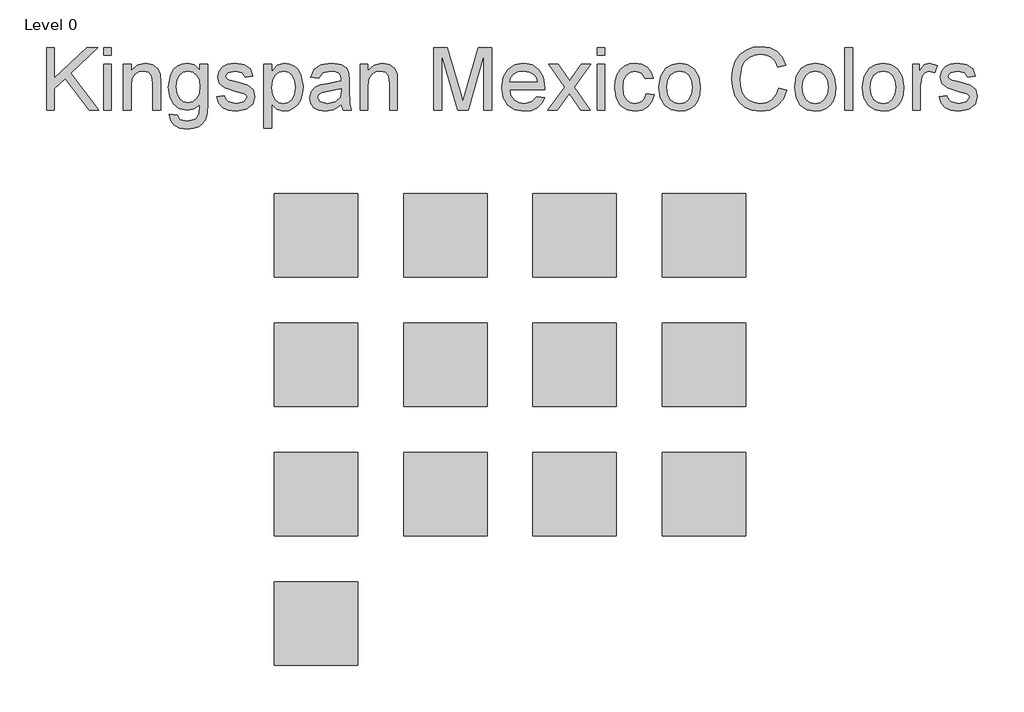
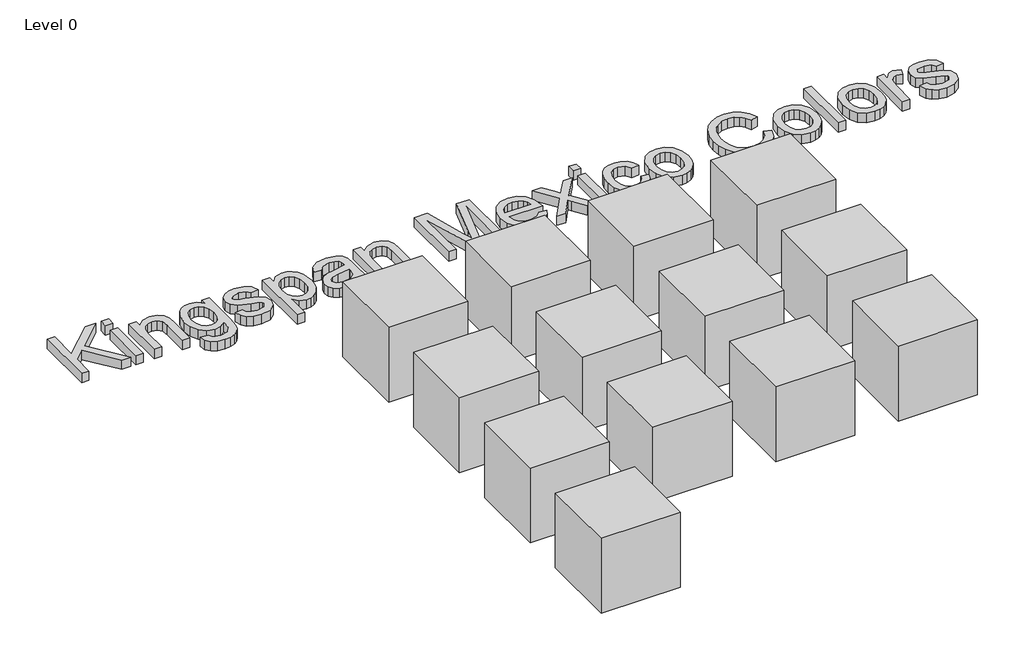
# One storey, incomplete: 14 proxies.
"""IFC4 building model written with IfcOpenShell, lengths in millimetres."""

from ifc_helpers import new_model, si_unit, origin, place, context, project, spatial, transform, mapped, element, save
from components import generic_models_94ed907e, ks_colour_sample_ks_colour_sample_0243efec

model = new_model("IFC4")

# Units and contexts
model_context = context("Model", 3, world=origin())
ifc_project = project(units=[si_unit("LENGTHUNIT", "METRE", prefix="MILLI")], contexts=[model_context])

# Site, building, storey
site = spatial("IfcSite", under=ifc_project)
building = spatial("IfcBuilding", under=site)
storey = spatial("IfcBuildingStorey", under=building, Name="Level 0", Elevation=0.0)

# Proxies
placement = place(None, origin())
generic_models_shape = generic_models_94ed907e(model_context)
element("IfcBuildingElementProxy", 1, Name="KIP-MX_ColourRange_English : KIP-MX_ColourRange_English", ObjectType="KIP-MX_ColourRange_English : KIP-MX_ColourRange_English", at=placement, inside=storey, context=model_context, shape_type="MappedRepresentation", body=[
    mapped(generic_models_shape, transform((1966.0629502, 11802.7493823, 0.0), x_axis=(1.0, 0.0, 0.0), y_axis=(0.0, 1.0, 0.0), z_axis=(0.0, 0.0, 1.0))),
])
ks_colour_sample_ks_colour_sample_shape = ks_colour_sample_ks_colour_sample_0243efec(model_context)
element("IfcBuildingElementProxy", 2, Name="KS_Colour Sample : KS_Colour Sample", ObjectType="KS_Colour Sample : KS_Colour Sample", at=placement, inside=storey, context=model_context, shape_type="MappedRepresentation", body=[
    mapped(ks_colour_sample_ks_colour_sample_shape, transform((1501.0629502, 13781.2299273, 0.0), x_axis=(1.0, 0.0, 0.0), y_axis=(0.0, 1.0, 0.0), z_axis=(0.0, 0.0, 1.0))),
])
element("IfcBuildingElementProxy", 3, Name="KS_Colour Sample : KS_Colour Sample", ObjectType="KS_Colour Sample : KS_Colour Sample", at=placement, inside=storey, context=model_context, shape_type="MappedRepresentation", body=[
    mapped(ks_colour_sample_ks_colour_sample_shape, transform((1811.0629502, 13781.2299273, 0.0), x_axis=(1.0, 0.0, 0.0), y_axis=(0.0, 1.0, 0.0), z_axis=(0.0, 0.0, 1.0))),
])
element("IfcBuildingElementProxy", 4, Name="KS_Colour Sample : KS_Colour Sample", ObjectType="KS_Colour Sample : KS_Colour Sample", at=placement, inside=storey, context=model_context, shape_type="MappedRepresentation", body=[
    mapped(ks_colour_sample_ks_colour_sample_shape, transform((2121.0629502, 13781.2299273, 0.0), x_axis=(1.0, 0.0, 0.0), y_axis=(0.0, 1.0, 0.0), z_axis=(0.0, 0.0, 1.0))),
])
element("IfcBuildingElementProxy", 5, Name="KS_Colour Sample : KS_Colour Sample", ObjectType="KS_Colour Sample : KS_Colour Sample", at=placement, inside=storey, context=model_context, shape_type="MappedRepresentation", body=[
    mapped(ks_colour_sample_ks_colour_sample_shape, transform((2431.0629502, 13781.2299273, 0.0), x_axis=(1.0, 0.0, 0.0), y_axis=(0.0, 1.0, 0.0), z_axis=(0.0, 0.0, 1.0))),
])
element("IfcBuildingElementProxy", 6, Name="KS_Colour Sample : KS_Colour Sample", ObjectType="KS_Colour Sample : KS_Colour Sample", at=placement, inside=storey, context=model_context, shape_type="MappedRepresentation", body=[
    mapped(ks_colour_sample_ks_colour_sample_shape, transform((1501.0629502, 13471.2299273, 0.0), x_axis=(1.0, 0.0, 0.0), y_axis=(0.0, 1.0, 0.0), z_axis=(0.0, 0.0, 1.0))),
])
element("IfcBuildingElementProxy", 7, Name="KS_Colour Sample : KS_Colour Sample", ObjectType="KS_Colour Sample : KS_Colour Sample", at=placement, inside=storey, context=model_context, shape_type="MappedRepresentation", body=[
    mapped(ks_colour_sample_ks_colour_sample_shape, transform((1811.0629502, 13471.2299273, 0.0), x_axis=(1.0, 0.0, 0.0), y_axis=(0.0, 1.0, 0.0), z_axis=(0.0, 0.0, 1.0))),
])
element("IfcBuildingElementProxy", 8, Name="KS_Colour Sample : KS_Colour Sample", ObjectType="KS_Colour Sample : KS_Colour Sample", at=placement, inside=storey, context=model_context, shape_type="MappedRepresentation", body=[
    mapped(ks_colour_sample_ks_colour_sample_shape, transform((2121.0629502, 13471.2299273, 0.0), x_axis=(1.0, 0.0, 0.0), y_axis=(0.0, 1.0, 0.0), z_axis=(0.0, 0.0, 1.0))),
])
element("IfcBuildingElementProxy", 9, Name="KS_Colour Sample : KS_Colour Sample", ObjectType="KS_Colour Sample : KS_Colour Sample", at=placement, inside=storey, context=model_context, shape_type="MappedRepresentation", body=[
    mapped(ks_colour_sample_ks_colour_sample_shape, transform((2431.0629502, 13471.2299273, 0.0), x_axis=(1.0, 0.0, 0.0), y_axis=(0.0, 1.0, 0.0), z_axis=(0.0, 0.0, 1.0))),
])
element("IfcBuildingElementProxy", 10, Name="KS_Colour Sample : KS_Colour Sample", ObjectType="KS_Colour Sample : KS_Colour Sample", at=placement, inside=storey, context=model_context, shape_type="MappedRepresentation", body=[
    mapped(ks_colour_sample_ks_colour_sample_shape, transform((1501.0629502, 13161.2299273, 0.0), x_axis=(1.0, 0.0, 0.0), y_axis=(0.0, 1.0, 0.0), z_axis=(0.0, 0.0, 1.0))),
])
element("IfcBuildingElementProxy", 11, Name="KS_Colour Sample : KS_Colour Sample", ObjectType="KS_Colour Sample : KS_Colour Sample", at=placement, inside=storey, context=model_context, shape_type="MappedRepresentation", body=[
    mapped(ks_colour_sample_ks_colour_sample_shape, transform((1811.0629502, 13161.2299273, 0.0), x_axis=(1.0, 0.0, 0.0), y_axis=(0.0, 1.0, 0.0), z_axis=(0.0, 0.0, 1.0))),
])
element("IfcBuildingElementProxy", 12, Name="KS_Colour Sample : KS_Colour Sample", ObjectType="KS_Colour Sample : KS_Colour Sample", at=placement, inside=storey, context=model_context, shape_type="MappedRepresentation", body=[
    mapped(ks_colour_sample_ks_colour_sample_shape, transform((2121.0629502, 13161.2299273, 0.0), x_axis=(1.0, 0.0, 0.0), y_axis=(0.0, 1.0, 0.0), z_axis=(0.0, 0.0, 1.0))),
])
element("IfcBuildingElementProxy", 13, Name="KS_Colour Sample : KS_Colour Sample", ObjectType="KS_Colour Sample : KS_Colour Sample", at=placement, inside=storey, context=model_context, shape_type="MappedRepresentation", body=[
    mapped(ks_colour_sample_ks_colour_sample_shape, transform((2431.0629502, 13161.2299273, 0.0), x_axis=(1.0, 0.0, 0.0), y_axis=(0.0, 1.0, 0.0), z_axis=(0.0, 0.0, 1.0))),
])
element("IfcBuildingElementProxy", 14, Name="KS_Colour Sample : KS_Colour Sample", ObjectType="KS_Colour Sample : KS_Colour Sample", at=placement, inside=storey, context=model_context, shape_type="MappedRepresentation", body=[
    mapped(ks_colour_sample_ks_colour_sample_shape, transform((1501.0629502, 12851.2299273, 0.0), x_axis=(1.0, 0.0, 0.0), y_axis=(0.0, 1.0, 0.0), z_axis=(0.0, 0.0, 1.0))),
])

save(model, "model.ifc")
